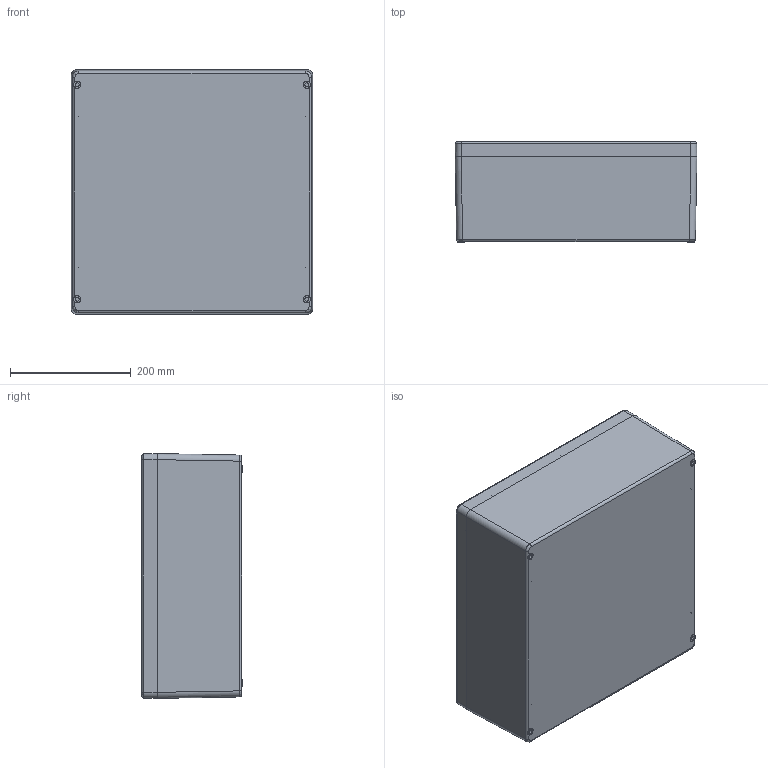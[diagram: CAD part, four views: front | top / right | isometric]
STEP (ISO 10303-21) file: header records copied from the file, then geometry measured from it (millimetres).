
FILE_DESCRIPTION (( 'STEP AP203' ), '1' );
FILE_NAME ('exe400405165.STEP', '2013-06-05T17:19:29', ( 'User' ), ( 'Pentair Inc' ), 'SwSTEP 2.0', 'SolidWorks 2010', '' );
FILE_SCHEMA (( 'CONFIG_CONTROL_DESIGN' ));
Length unit declared in the file: inch
Products named in the file (4): exe400405165; 89092793; 89092775; 89092829_DRAWING
Assembly tree (6 placements, depth 2):
  exe400405165
    89092829_DRAWING  x4
    89092793
    89092775
Bounding box: 400 x 165.5 x 405 mm (x, y, z)
Volume: 1099273.9 mm3; surface area: 1221235.5 mm2
Topology: 6 solids, 17 shells, 595 faces, 1528 edges, 968 vertices
Faces by surface type: cylinder 240, plane 215, cone 96, torus 24, bspline 20
Entity records: 15793 total; most frequent: CARTESIAN_POINT 4216, DIRECTION 2437, ORIENTED_EDGE 2238, EDGE_CURVE 1139, AXIS2_PLACEMENT_3D 939, VERTEX_POINT 734, LINE 559, VECTOR 559
